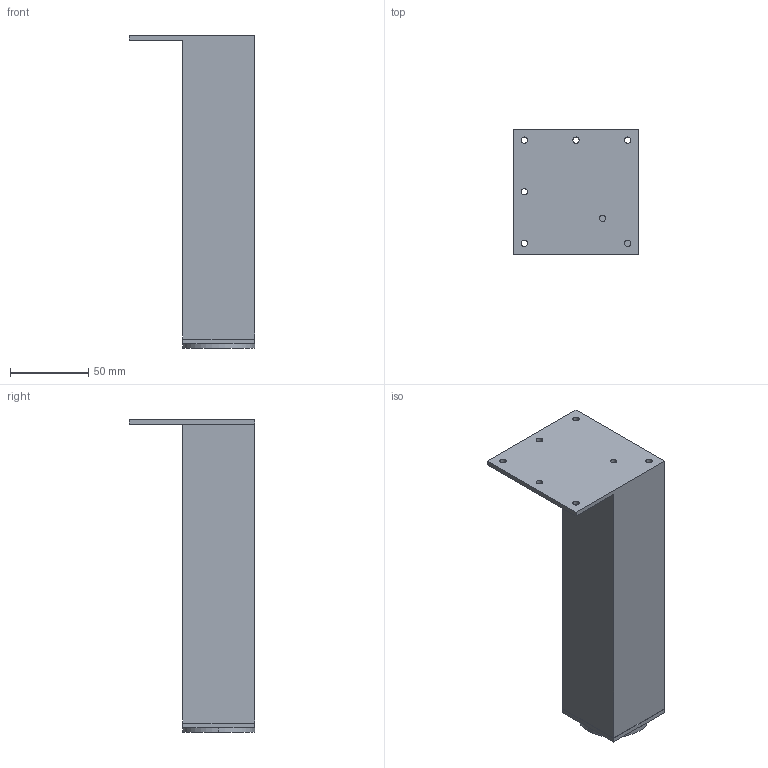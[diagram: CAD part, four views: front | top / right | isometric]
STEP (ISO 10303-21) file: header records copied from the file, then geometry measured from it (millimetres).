
FILE_DESCRIPTION( ( '' ), '1' );
FILE_NAME( 'D:/temp/hettich_stp/hettich/6.5_furniture_legs/furniture_legs/46494.stp', '2013-02-26T12:27:36', ( '' ), ( '' ), ' ', ' ', ' ' );
FILE_SCHEMA( ( 'automotive_design' ) );
Length unit declared in the file: millimetre
Products named in the file (1): 1
Bounding box: 80 x 80 x 200 mm (x, y, z)
Volume: 64617.3 mm3; surface area: 87788.8 mm2
Topology: 1 solids, 1 shells, 45 faces, 111 edges, 72 vertices
Faces by surface type: plane 29, cylinder 16
Entity records: 2654 total; most frequent: DIRECTION 237, STYLED_ITEM 229, PRESENTATION_STYLE_ASSIGNMENT 229, CARTESIAN_POINT 229, COLOUR_RGB 229, ORIENTED_EDGE 222, EDGE_CURVE 111, CURVE_STYLE 111
